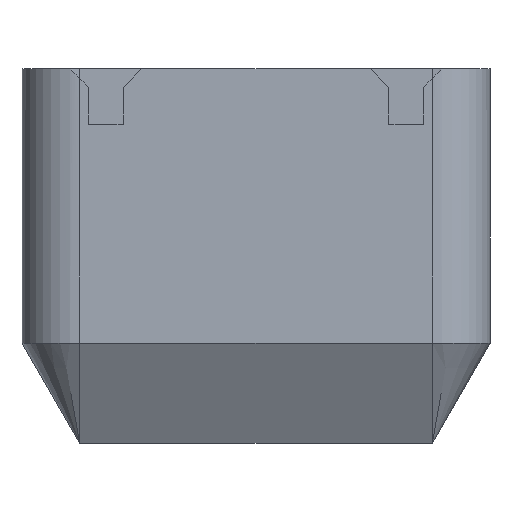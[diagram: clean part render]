
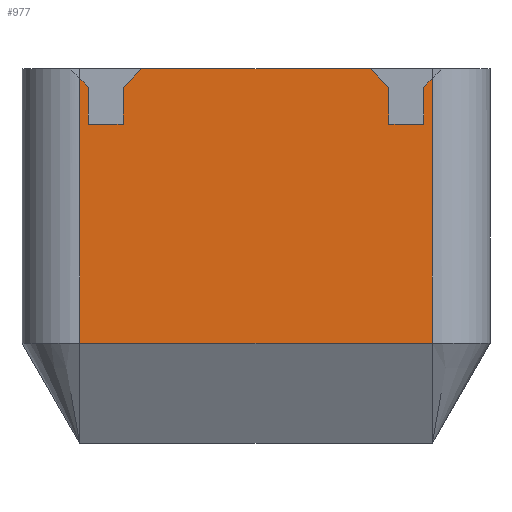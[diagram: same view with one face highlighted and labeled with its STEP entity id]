
A CAD part, front view. The second image highlights one B-rep face of the part: STEP entity #977.
In plain terms, the highlighted planar face has unit normal (0, -1, 0).
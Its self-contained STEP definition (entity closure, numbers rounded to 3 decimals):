
#103=FACE_OUTER_BOUND('',#166,.T.);
#166=EDGE_LOOP('',(#688,#689,#690,#691,#692,#693,#694,#695,#696,#697,#698,
#699,#700,#701));
#234=LINE('',#1504,#334);
#239=LINE('',#1525,#339);
#240=LINE('',#1531,#340);
#241=LINE('',#1533,#341);
#242=LINE('',#1535,#342);
#243=LINE('',#1537,#343);
#244=LINE('',#1539,#344);
#245=LINE('',#1541,#345);
#246=LINE('',#1543,#346);
#247=LINE('',#1545,#347);
#248=LINE('',#1547,#348);
#249=LINE('',#1549,#349);
#250=LINE('',#1551,#350);
#251=LINE('',#1552,#351);
#334=VECTOR('',#1181,10.);
#339=VECTOR('',#1210,10.);
#340=VECTOR('',#1217,10.);
#341=VECTOR('',#1218,10.);
#342=VECTOR('',#1219,10.);
#343=VECTOR('',#1220,10.);
#344=VECTOR('',#1221,10.);
#345=VECTOR('',#1222,10.);
#346=VECTOR('',#1223,10.);
#347=VECTOR('',#1224,10.);
#348=VECTOR('',#1225,10.);
#349=VECTOR('',#1226,10.);
#350=VECTOR('',#1227,10.);
#351=VECTOR('',#1228,10.);
#429=VERTEX_POINT('',#1499);
#430=VERTEX_POINT('',#1502);
#434=VERTEX_POINT('',#1524);
#436=VERTEX_POINT('',#1530);
#437=VERTEX_POINT('',#1532);
#438=VERTEX_POINT('',#1534);
#439=VERTEX_POINT('',#1536);
#440=VERTEX_POINT('',#1538);
#441=VERTEX_POINT('',#1540);
#442=VERTEX_POINT('',#1542);
#443=VERTEX_POINT('',#1544);
#444=VERTEX_POINT('',#1546);
#445=VERTEX_POINT('',#1548);
#446=VERTEX_POINT('',#1550);
#518=EDGE_CURVE('',#430,#429,#234,.T.);
#528=EDGE_CURVE('',#429,#434,#239,.T.);
#531=EDGE_CURVE('',#436,#430,#240,.T.);
#532=EDGE_CURVE('',#437,#436,#241,.T.);
#533=EDGE_CURVE('',#437,#438,#242,.T.);
#534=EDGE_CURVE('',#438,#439,#243,.T.);
#535=EDGE_CURVE('',#439,#440,#244,.T.);
#536=EDGE_CURVE('',#441,#440,#245,.T.);
#537=EDGE_CURVE('',#442,#441,#246,.T.);
#538=EDGE_CURVE('',#443,#442,#247,.T.);
#539=EDGE_CURVE('',#443,#444,#248,.T.);
#540=EDGE_CURVE('',#444,#445,#249,.T.);
#541=EDGE_CURVE('',#445,#446,#250,.T.);
#542=EDGE_CURVE('',#434,#446,#251,.T.);
#688=ORIENTED_EDGE('',*,*,#518,.F.);
#689=ORIENTED_EDGE('',*,*,#531,.F.);
#690=ORIENTED_EDGE('',*,*,#532,.F.);
#691=ORIENTED_EDGE('',*,*,#533,.T.);
#692=ORIENTED_EDGE('',*,*,#534,.T.);
#693=ORIENTED_EDGE('',*,*,#535,.T.);
#694=ORIENTED_EDGE('',*,*,#536,.F.);
#695=ORIENTED_EDGE('',*,*,#537,.F.);
#696=ORIENTED_EDGE('',*,*,#538,.F.);
#697=ORIENTED_EDGE('',*,*,#539,.T.);
#698=ORIENTED_EDGE('',*,*,#540,.T.);
#699=ORIENTED_EDGE('',*,*,#541,.T.);
#700=ORIENTED_EDGE('',*,*,#542,.F.);
#701=ORIENTED_EDGE('',*,*,#528,.F.);
#940=PLANE('',#1067);
#977=ADVANCED_FACE('',(#103),#940,.T.);
#1067=AXIS2_PLACEMENT_3D('',#1529,#1215,#1216);
#1181=DIRECTION('',(-1.,0.,0.));
#1210=DIRECTION('',(0.,0.,1.));
#1215=DIRECTION('center_axis',(0.,-1.,0.));
#1216=DIRECTION('ref_axis',(1.,0.,0.));
#1217=DIRECTION('',(0.,0.,-1.));
#1218=DIRECTION('',(0.707,0.,0.707));
#1219=DIRECTION('',(0.,0.,-1.));
#1220=DIRECTION('',(-1.,0.,0.));
#1221=DIRECTION('',(0.,0.,1.));
#1222=DIRECTION('',(0.707,0.,-0.707));
#1223=DIRECTION('',(1.,0.,0.));
#1224=DIRECTION('',(0.707,0.,0.707));
#1225=DIRECTION('',(0.,0.,-1.));
#1226=DIRECTION('',(-1.,0.,0.));
#1227=DIRECTION('',(0.,0.,1.));
#1228=DIRECTION('',(0.707,0.,-0.707));
#1499=CARTESIAN_POINT('',(-15.25,-27.5,8.66));
#1502=CARTESIAN_POINT('',(15.25,-27.5,8.66));
#1504=CARTESIAN_POINT('',(-10.125,-27.5,8.66));
#1524=CARTESIAN_POINT('',(-15.25,-27.5,31.55));
#1525=CARTESIAN_POINT('',(-15.25,-27.5,0.));
#1529=CARTESIAN_POINT('Origin',(-20.25,-27.5,0.));
#1530=CARTESIAN_POINT('',(15.25,-27.5,31.55));
#1531=CARTESIAN_POINT('',(15.25,-27.5,0.));
#1532=CARTESIAN_POINT('',(14.5,-27.5,30.8));
#1533=CARTESIAN_POINT('',(-1.488,-27.5,14.813));
#1534=CARTESIAN_POINT('',(14.5,-27.5,27.6));
#1535=CARTESIAN_POINT('',(14.5,-27.5,13.8));
#1536=CARTESIAN_POINT('',(11.5,-27.5,27.6));
#1537=CARTESIAN_POINT('',(-4.375,-27.5,27.6));
#1538=CARTESIAN_POINT('',(11.5,-27.5,30.8));
#1539=CARTESIAN_POINT('',(11.5,-27.5,17.727));
#1540=CARTESIAN_POINT('',(9.9,-27.5,32.4));
#1541=CARTESIAN_POINT('',(10.863,-27.5,31.438));
#1542=CARTESIAN_POINT('',(-9.9,-27.5,32.4));
#1543=CARTESIAN_POINT('',(20.25,-27.5,32.4));
#1544=CARTESIAN_POINT('',(-11.5,-27.5,30.8));
#1545=CARTESIAN_POINT('',(-20.988,-27.5,21.313));
#1546=CARTESIAN_POINT('',(-11.5,-27.5,27.6));
#1547=CARTESIAN_POINT('',(-11.5,-27.5,17.727));
#1548=CARTESIAN_POINT('',(-14.5,-27.5,27.6));
#1549=CARTESIAN_POINT('',(-15.875,-27.5,27.6));
#1550=CARTESIAN_POINT('',(-14.5,-27.5,30.8));
#1551=CARTESIAN_POINT('',(-14.5,-27.5,13.8));
#1552=CARTESIAN_POINT('',(-8.638,-27.5,24.938));
